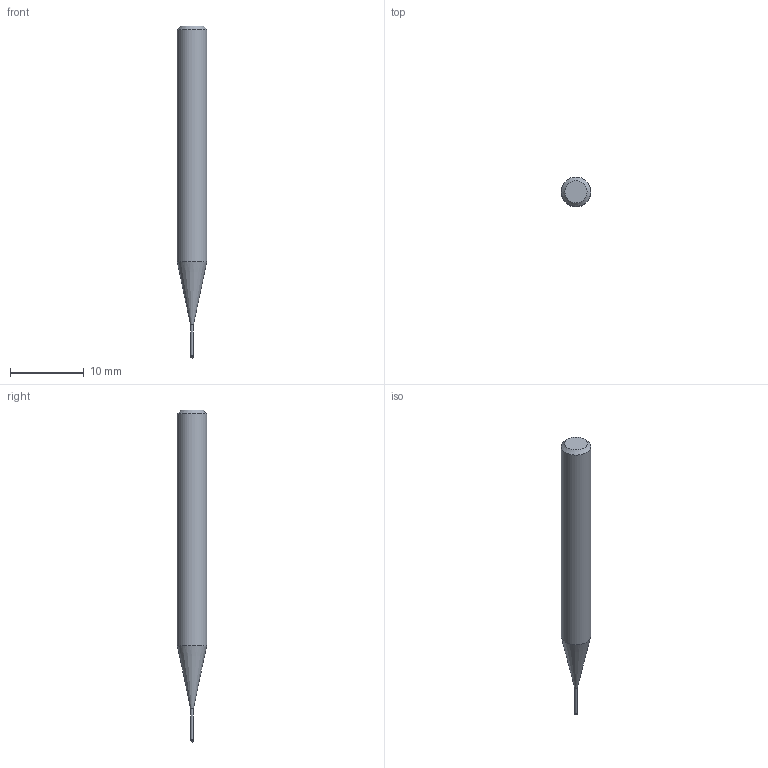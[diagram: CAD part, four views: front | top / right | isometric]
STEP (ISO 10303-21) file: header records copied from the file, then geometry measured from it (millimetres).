
FILE_DESCRIPTION((''),'2;1');
FILE_NAME('C:\Users\nsx150\AppData\Local\Temp\Mastercam 2021\3SYKECWX22\TEMP.step','2021-04-22T09:59:59',(''),(''),'STEP Write','Mastercam 2021 ... CNC Software, Inc.','');
FILE_SCHEMA(('AUTOMOTIVE_DESIGN'));
Length unit declared in the file: millimetre
Products named in the file (1): None
Bounding box: 4 x 4 x 45 mm (x, y, z)
Volume: 440.1 mm3; surface area: 475.6 mm2
Topology: 2 solids, 2 shells, 9 faces, 14 edges, 8 vertices
Faces by surface type: plane 3, cylinder 3, cone 2, sphere 1
Full cylindrical faces by diameter (mm): 0.37 x1, 0.4 x1, 4 x1
Entity records: 211 total; most frequent: DIRECTION 36, CARTESIAN_POINT 25, AXIS2_PLACEMENT_3D 18, ORIENTED_EDGE 14, EDGE_LOOP 14, STYLED_ITEM 12, ADVANCED_FACE 9, FACE_BOUND 8
